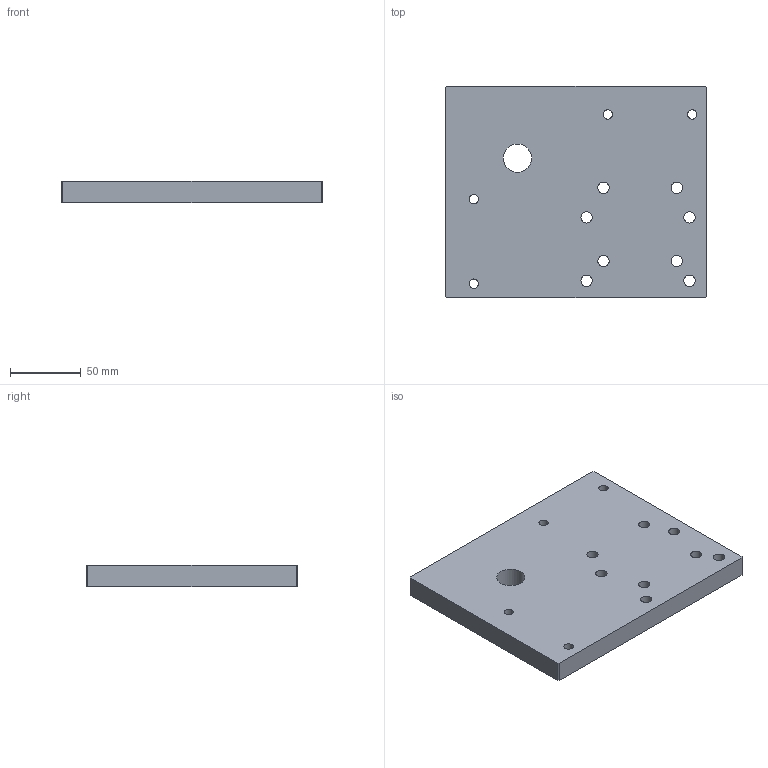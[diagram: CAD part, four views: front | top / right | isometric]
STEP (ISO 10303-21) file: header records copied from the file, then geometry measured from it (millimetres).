
FILE_DESCRIPTION(('STEP AP214'),'1');
FILE_NAME('AP4I-M20.stp','2017-07-21T06:27:08',(' '),(' '),'Spatial InterOp 3D',' ',' ');
FILE_SCHEMA(('automotive_design'));
Length unit declared in the file: millimetre
Products named in the file (1): AP4I-M20
Bounding box: 185 x 150 x 15 mm (x, y, z)
Volume: 403423 mm3; surface area: 69007.1 mm2
Topology: 1 solids, 1 shells, 23 faces, 63 edges, 42 vertices
Faces by surface type: cylinder 13, plane 10
Full cylindrical faces by diameter (mm): 6.6 x4, 8 x8, 20 x1
Entity records: 930 total; most frequent: DIRECTION 124, CARTESIAN_POINT 116, ORIENTED_EDGE 100, EDGE_LOOP 62, AXIS2_PLACEMENT_3D 50, EDGE_CURVE 50, VERTEX_POINT 42, FACE_OUTER_BOUND 36
